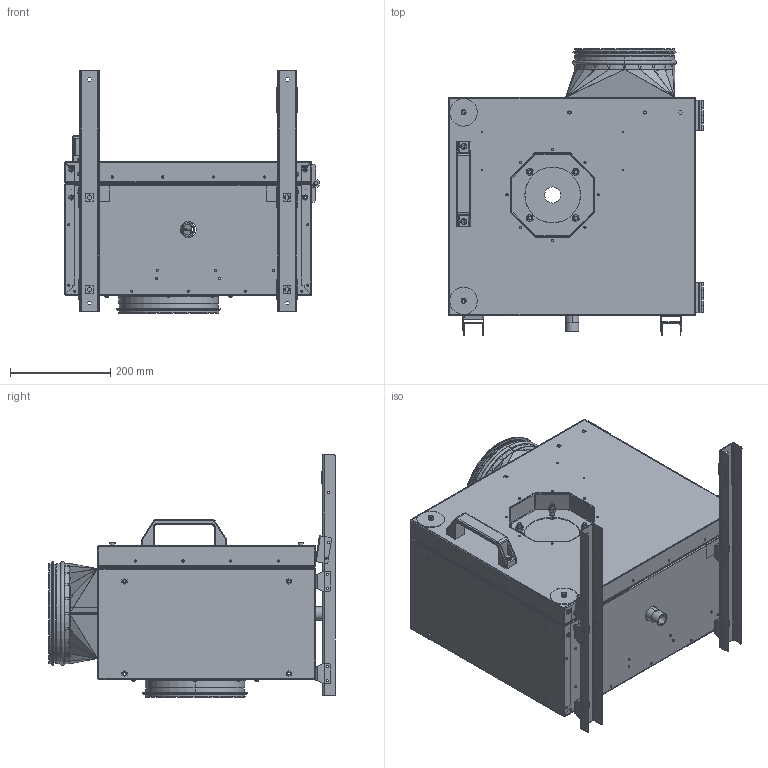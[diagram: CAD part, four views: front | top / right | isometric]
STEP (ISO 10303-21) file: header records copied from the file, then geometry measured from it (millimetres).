
FILE_DESCRIPTION (( 'STEP AP203' ), '1' );
FILE_NAME ('137879-00_mps225E221.STEP', '2016-11-11T08:52:54', ( '' ), ( '' ), 'SwSTEP 2.0', 'SolidWorks 2012', '' );
FILE_SCHEMA (( 'CONFIG_CONTROL_DESIGN' ));
Products named in the file (1): 137879-00_mps225E221
Bounding box: 507.1 x 571.18 x 483 mm (x, y, z)
Surface area: 3731135 mm2 (no closed solid volume)
Topology: 0 solids, 189 shells, 1798 faces, 8759 edges, 6925 vertices
Faces by surface type: cylinder 850, plane 752, torus 84, cone 65, bspline 47
Entity records: 95967 total; most frequent: CARTESIAN_POINT 26366, DIRECTION 14605, ORIENTED_EDGE 12033, EDGE_CURVE 8759, VERTEX_POINT 6925, LINE 4935, VECTOR 4935, AXIS2_PLACEMENT_3D 4835
